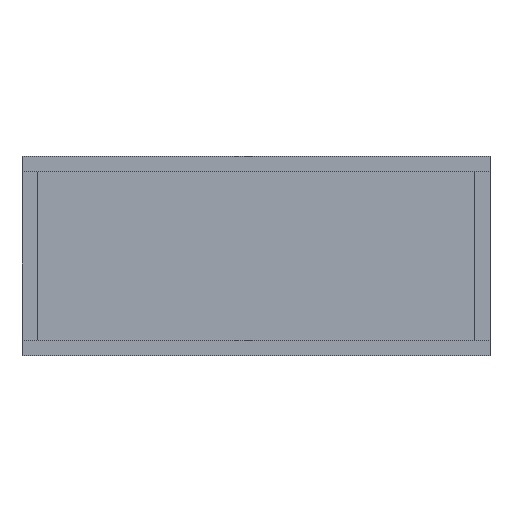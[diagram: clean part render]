
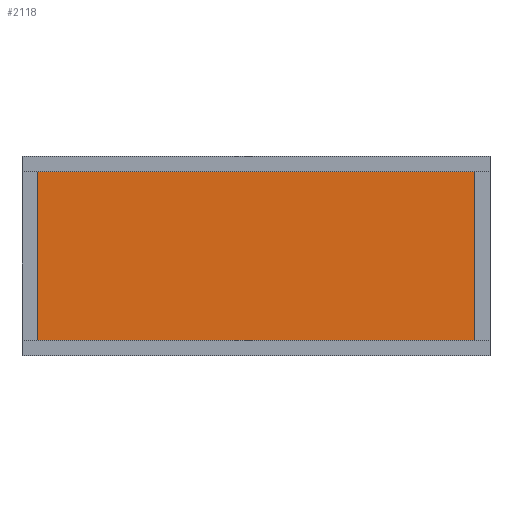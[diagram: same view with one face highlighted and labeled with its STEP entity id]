
A CAD part, top view. The second image highlights one B-rep face of the part: STEP entity #2118.
In plain terms, the highlighted planar face has unit normal (0, 0, 1).
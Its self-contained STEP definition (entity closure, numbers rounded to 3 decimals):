
#156 = PLANE('',#157);
#157 = AXIS2_PLACEMENT_3D('',#158,#159,#160);
#158 = CARTESIAN_POINT('',(-61.,22.,2.));
#159 = DIRECTION('',(-0.,1.,0.));
#160 = DIRECTION('',(0.,0.,1.));
#212 = PLANE('',#213);
#213 = AXIS2_PLACEMENT_3D('',#214,#215,#216);
#214 = CARTESIAN_POINT('',(-61.,-22.,2.));
#215 = DIRECTION('',(-0.,1.,0.));
#216 = DIRECTION('',(0.,0.,1.));
#968 = VERTEX_POINT('',#969);
#969 = CARTESIAN_POINT('',(57.,22.,4.));
#983 = PLANE('',#984);
#984 = AXIS2_PLACEMENT_3D('',#985,#986,#987);
#985 = CARTESIAN_POINT('',(57.,-22.,2.));
#986 = DIRECTION('',(1.,0.,-0.));
#987 = DIRECTION('',(0.,0.,1.));
#995 = EDGE_CURVE('',#968,#996,#998,.T.);
#996 = VERTEX_POINT('',#997);
#997 = CARTESIAN_POINT('',(-57.,22.,4.));
#998 = SURFACE_CURVE('',#999,(#1003,#1009),.PCURVE_S1.);
#999 = LINE('',#1000,#1001);
#1000 = CARTESIAN_POINT('',(-61.,22.,4.));
#1001 = VECTOR('',#1002,1.);
#1002 = DIRECTION('',(-1.,-0.,0.));
#1003 = PCURVE('',#156,#1004);
#1004 = DEFINITIONAL_REPRESENTATION('',(#1005),#1008);
#1005 = B_SPLINE_CURVE_WITH_KNOTS('',1,(#1006,#1007),.UNSPECIFIED.,.F.,
  .F.,(2,2),(-122.,0.),.PIECEWISE_BEZIER_KNOTS.);
#1006 = CARTESIAN_POINT('',(2.,122.));
#1007 = CARTESIAN_POINT('',(2.,0.));
#1008 = ( GEOMETRIC_REPRESENTATION_CONTEXT(2) 
PARAMETRIC_REPRESENTATION_CONTEXT() REPRESENTATION_CONTEXT('2D SPACE',''
  ) );
#1009 = PCURVE('',#1010,#1015);
#1010 = PLANE('',#1011);
#1011 = AXIS2_PLACEMENT_3D('',#1012,#1013,#1014);
#1012 = CARTESIAN_POINT('',(-61.,-26.,4.));
#1013 = DIRECTION('',(0.,0.,1.));
#1014 = DIRECTION('',(1.,0.,-0.));
#1015 = DEFINITIONAL_REPRESENTATION('',(#1016),#1019);
#1016 = B_SPLINE_CURVE_WITH_KNOTS('',1,(#1017,#1018),.UNSPECIFIED.,.F.,
  .F.,(2,2),(-122.,0.),.PIECEWISE_BEZIER_KNOTS.);
#1017 = CARTESIAN_POINT('',(122.,48.));
#1018 = CARTESIAN_POINT('',(0.,48.));
#1019 = ( GEOMETRIC_REPRESENTATION_CONTEXT(2) 
PARAMETRIC_REPRESENTATION_CONTEXT() REPRESENTATION_CONTEXT('2D SPACE',''
  ) );
#1037 = PLANE('',#1038);
#1038 = AXIS2_PLACEMENT_3D('',#1039,#1040,#1041);
#1039 = CARTESIAN_POINT('',(-57.,-22.,2.));
#1040 = DIRECTION('',(1.,0.,-0.));
#1041 = DIRECTION('',(0.,0.,1.));
#1345 = VERTEX_POINT('',#1346);
#1346 = CARTESIAN_POINT('',(57.,-22.,4.));
#1367 = EDGE_CURVE('',#1345,#1368,#1370,.T.);
#1368 = VERTEX_POINT('',#1369);
#1369 = CARTESIAN_POINT('',(-57.,-22.,4.));
#1370 = SURFACE_CURVE('',#1371,(#1375,#1381),.PCURVE_S1.);
#1371 = LINE('',#1372,#1373);
#1372 = CARTESIAN_POINT('',(-61.,-22.,4.));
#1373 = VECTOR('',#1374,1.);
#1374 = DIRECTION('',(-1.,-0.,0.));
#1375 = PCURVE('',#212,#1376);
#1376 = DEFINITIONAL_REPRESENTATION('',(#1377),#1380);
#1377 = B_SPLINE_CURVE_WITH_KNOTS('',1,(#1378,#1379),.UNSPECIFIED.,.F.,
  .F.,(2,2),(-122.,0.),.PIECEWISE_BEZIER_KNOTS.);
#1378 = CARTESIAN_POINT('',(2.,122.));
#1379 = CARTESIAN_POINT('',(2.,0.));
#1380 = ( GEOMETRIC_REPRESENTATION_CONTEXT(2) 
PARAMETRIC_REPRESENTATION_CONTEXT() REPRESENTATION_CONTEXT('2D SPACE',''
  ) );
#1381 = PCURVE('',#1010,#1382);
#1382 = DEFINITIONAL_REPRESENTATION('',(#1383),#1386);
#1383 = B_SPLINE_CURVE_WITH_KNOTS('',1,(#1384,#1385),.UNSPECIFIED.,.F.,
  .F.,(2,2),(-122.,0.),.PIECEWISE_BEZIER_KNOTS.);
#1384 = CARTESIAN_POINT('',(122.,4.));
#1385 = CARTESIAN_POINT('',(0.,4.));
#1386 = ( GEOMETRIC_REPRESENTATION_CONTEXT(2) 
PARAMETRIC_REPRESENTATION_CONTEXT() REPRESENTATION_CONTEXT('2D SPACE',''
  ) );
#2098 = EDGE_CURVE('',#1368,#996,#2099,.T.);
#2099 = SURFACE_CURVE('',#2100,(#2104,#2110),.PCURVE_S1.);
#2100 = LINE('',#2101,#2102);
#2101 = CARTESIAN_POINT('',(-57.,-24.,4.));
#2102 = VECTOR('',#2103,1.);
#2103 = DIRECTION('',(-0.,1.,0.));
#2104 = PCURVE('',#1037,#2105);
#2105 = DEFINITIONAL_REPRESENTATION('',(#2106),#2109);
#2106 = B_SPLINE_CURVE_WITH_KNOTS('',1,(#2107,#2108),.UNSPECIFIED.,.F.,
  .F.,(2,2),(2.,46.),.PIECEWISE_BEZIER_KNOTS.);
#2107 = CARTESIAN_POINT('',(2.,0.));
#2108 = CARTESIAN_POINT('',(2.,-44.));
#2109 = ( GEOMETRIC_REPRESENTATION_CONTEXT(2) 
PARAMETRIC_REPRESENTATION_CONTEXT() REPRESENTATION_CONTEXT('2D SPACE',''
  ) );
#2110 = PCURVE('',#1010,#2111);
#2111 = DEFINITIONAL_REPRESENTATION('',(#2112),#2115);
#2112 = B_SPLINE_CURVE_WITH_KNOTS('',1,(#2113,#2114),.UNSPECIFIED.,.F.,
  .F.,(2,2),(2.,46.),.PIECEWISE_BEZIER_KNOTS.);
#2113 = CARTESIAN_POINT('',(4.,4.));
#2114 = CARTESIAN_POINT('',(4.,48.));
#2115 = ( GEOMETRIC_REPRESENTATION_CONTEXT(2) 
PARAMETRIC_REPRESENTATION_CONTEXT() REPRESENTATION_CONTEXT('2D SPACE',''
  ) );
#2118 = ADVANCED_FACE('',(#2119),#1010,.T.);
#2119 = FACE_BOUND('',#2120,.T.);
#2120 = EDGE_LOOP('',(#2121,#2140,#2141,#2142));
#2121 = ORIENTED_EDGE('',*,*,#2122,.T.);
#2122 = EDGE_CURVE('',#1345,#968,#2123,.T.);
#2123 = SURFACE_CURVE('',#2124,(#2128,#2134),.PCURVE_S1.);
#2124 = LINE('',#2125,#2126);
#2125 = CARTESIAN_POINT('',(57.,-24.,4.));
#2126 = VECTOR('',#2127,1.);
#2127 = DIRECTION('',(-0.,1.,0.));
#2128 = PCURVE('',#1010,#2129);
#2129 = DEFINITIONAL_REPRESENTATION('',(#2130),#2133);
#2130 = B_SPLINE_CURVE_WITH_KNOTS('',1,(#2131,#2132),.UNSPECIFIED.,.F.,
  .F.,(2,2),(2.,46.),.PIECEWISE_BEZIER_KNOTS.);
#2131 = CARTESIAN_POINT('',(118.,4.));
#2132 = CARTESIAN_POINT('',(118.,48.));
#2133 = ( GEOMETRIC_REPRESENTATION_CONTEXT(2) 
PARAMETRIC_REPRESENTATION_CONTEXT() REPRESENTATION_CONTEXT('2D SPACE',''
  ) );
#2134 = PCURVE('',#983,#2135);
#2135 = DEFINITIONAL_REPRESENTATION('',(#2136),#2139);
#2136 = B_SPLINE_CURVE_WITH_KNOTS('',1,(#2137,#2138),.UNSPECIFIED.,.F.,
  .F.,(2,2),(2.,46.),.PIECEWISE_BEZIER_KNOTS.);
#2137 = CARTESIAN_POINT('',(2.,0.));
#2138 = CARTESIAN_POINT('',(2.,-44.));
#2139 = ( GEOMETRIC_REPRESENTATION_CONTEXT(2) 
PARAMETRIC_REPRESENTATION_CONTEXT() REPRESENTATION_CONTEXT('2D SPACE',''
  ) );
#2140 = ORIENTED_EDGE('',*,*,#995,.T.);
#2141 = ORIENTED_EDGE('',*,*,#2098,.F.);
#2142 = ORIENTED_EDGE('',*,*,#1367,.F.);
